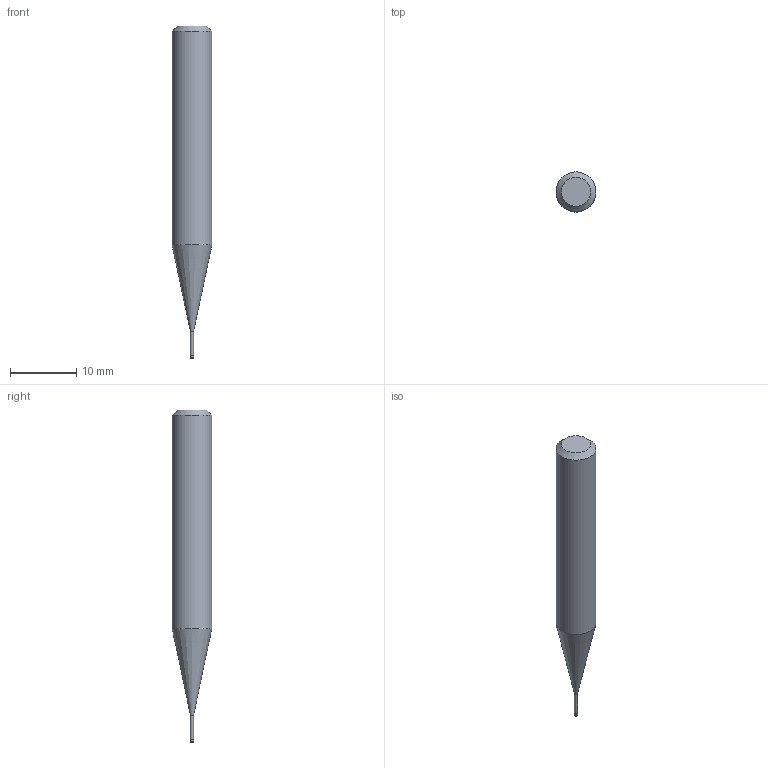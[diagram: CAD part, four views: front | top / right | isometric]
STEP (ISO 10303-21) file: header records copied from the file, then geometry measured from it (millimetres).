
FILE_DESCRIPTION((''),'2;1');
FILE_NAME('C:\Users\nsx150\AppData\Local\Temp\Mastercam 2021\17T8Q8S9EB\TEMP.step','2021-04-21T14:31:04',(''),(''),'STEP Write','Mastercam 2021 ... CNC Software, Inc.','');
FILE_SCHEMA(('AUTOMOTIVE_DESIGN'));
Length unit declared in the file: millimetre
Products named in the file (1): None
Bounding box: 6 x 6 x 50 mm (x, y, z)
Volume: 1060.3 mm3; surface area: 781.6 mm2
Topology: 2 solids, 2 shells, 10 faces, 14 edges, 8 vertices
Faces by surface type: plane 4, cylinder 3, cone 2, torus 1
Full cylindrical faces by diameter (mm): 0.46 x1, 0.5 x1, 6 x1
Entity records: 232 total; most frequent: DIRECTION 40, CARTESIAN_POINT 28, AXIS2_PLACEMENT_3D 20, ORIENTED_EDGE 16, EDGE_LOOP 16, STYLED_ITEM 13, ADVANCED_FACE 10, FACE_BOUND 10
